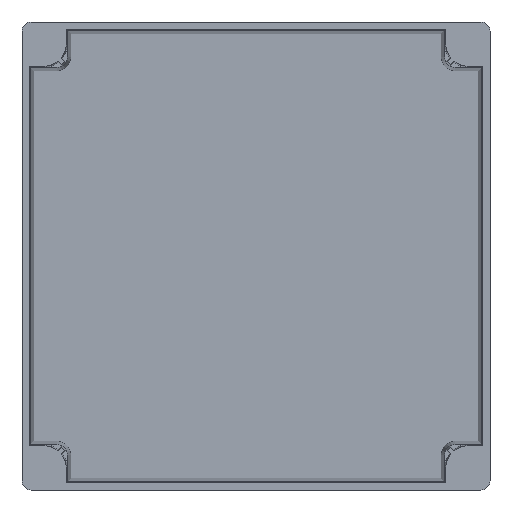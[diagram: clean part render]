
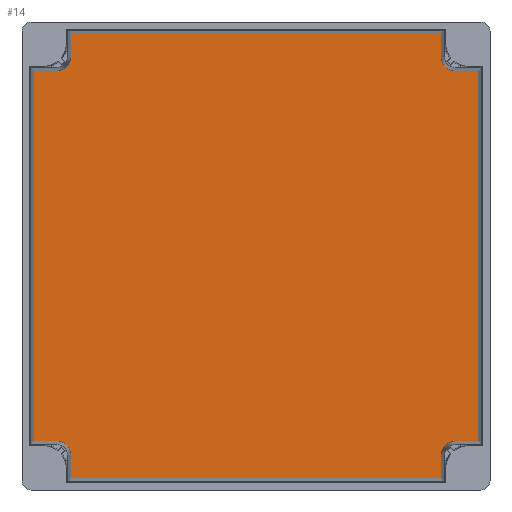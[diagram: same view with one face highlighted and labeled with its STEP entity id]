
A CAD part, front view. The second image highlights one B-rep face of the part: STEP entity #14.
In plain terms, the highlighted planar face has unit normal (0, -1, 0).
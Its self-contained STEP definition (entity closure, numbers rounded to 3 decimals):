
#14 = ADVANCED_FACE ( 'NONE', ( #1373 ), #1379, .F. ) ;
#15 = EDGE_LOOP ( 'NONE', ( #16, #20, #23, #26, #148, #277, #280, #283, #286, #289, #180, #183, #175, #178, #187, #267 ) ) ;
#16 = ORIENTED_EDGE ( 'NONE', *, *, #17, .T. ) ;
#17 = EDGE_CURVE ( 'NONE', #18, #19, #1368, .T. ) ;
#18 = VERTEX_POINT ( 'NONE', #1363 ) ;
#19 = VERTEX_POINT ( 'NONE', #1362 ) ;
#20 = ORIENTED_EDGE ( 'NONE', *, *, #21, .T. ) ;
#21 = EDGE_CURVE ( 'NONE', #19, #22, #1361, .T. ) ;
#22 = VERTEX_POINT ( 'NONE', #1357 ) ;
#23 = ORIENTED_EDGE ( 'NONE', *, *, #24, .T. ) ;
#24 = EDGE_CURVE ( 'NONE', #22, #25, #1204, .T. ) ;
#25 = VERTEX_POINT ( 'NONE', #1200 ) ;
#26 = ORIENTED_EDGE ( 'NONE', *, *, #146, .T. ) ;
#146 = EDGE_CURVE ( 'NONE', #25, #147, #1485, .T. ) ;
#147 = VERTEX_POINT ( 'NONE', #1481 ) ;
#148 = ORIENTED_EDGE ( 'NONE', *, *, #276, .T. ) ;
#149 = VERTEX_POINT ( 'NONE', #1480 ) ;
#175 = ORIENTED_EDGE ( 'NONE', *, *, #176, .T. ) ;
#176 = EDGE_CURVE ( 'NONE', #185, #177, #1405, .T. ) ;
#177 = VERTEX_POINT ( 'NONE', #1400 ) ;
#178 = ORIENTED_EDGE ( 'NONE', *, *, #186, .T. ) ;
#179 = VERTEX_POINT ( 'NONE', #1399 ) ;
#180 = ORIENTED_EDGE ( 'NONE', *, *, #181, .T. ) ;
#181 = EDGE_CURVE ( 'NONE', #291, #182, #1449, .T. ) ;
#182 = VERTEX_POINT ( 'NONE', #1445 ) ;
#183 = ORIENTED_EDGE ( 'NONE', *, *, #184, .T. ) ;
#184 = EDGE_CURVE ( 'NONE', #182, #185, #1444, .T. ) ;
#185 = VERTEX_POINT ( 'NONE', #1440 ) ;
#186 = EDGE_CURVE ( 'NONE', #177, #179, #1439, .T. ) ;
#187 = ORIENTED_EDGE ( 'NONE', *, *, #265, .T. ) ;
#265 = EDGE_CURVE ( 'NONE', #179, #266, #1585, .T. ) ;
#266 = VERTEX_POINT ( 'NONE', #1581 ) ;
#267 = ORIENTED_EDGE ( 'NONE', *, *, #268, .T. ) ;
#268 = EDGE_CURVE ( 'NONE', #266, #18, #1580, .T. ) ;
#276 = EDGE_CURVE ( 'NONE', #147, #149, #1398, .T. ) ;
#277 = ORIENTED_EDGE ( 'NONE', *, *, #278, .T. ) ;
#278 = EDGE_CURVE ( 'NONE', #149, #279, #1394, .T. ) ;
#279 = VERTEX_POINT ( 'NONE', #1390 ) ;
#280 = ORIENTED_EDGE ( 'NONE', *, *, #281, .T. ) ;
#281 = EDGE_CURVE ( 'NONE', #279, #282, #1389, .T. ) ;
#282 = VERTEX_POINT ( 'NONE', #1983 ) ;
#283 = ORIENTED_EDGE ( 'NONE', *, *, #284, .T. ) ;
#284 = EDGE_CURVE ( 'NONE', #282, #285, #2001, .T. ) ;
#285 = VERTEX_POINT ( 'NONE', #1997 ) ;
#286 = ORIENTED_EDGE ( 'NONE', *, *, #287, .T. ) ;
#287 = EDGE_CURVE ( 'NONE', #285, #288, #1982, .T. ) ;
#288 = VERTEX_POINT ( 'NONE', #1977 ) ;
#289 = ORIENTED_EDGE ( 'NONE', *, *, #290, .T. ) ;
#290 = EDGE_CURVE ( 'NONE', #288, #291, #2068, .T. ) ;
#291 = VERTEX_POINT ( 'NONE', #2064 ) ;
#1200 = CARTESIAN_POINT ( 'NONE',  ( -71.235, 48.8, 85.485 ) ) ;
#1201 = DIRECTION ( 'NONE',  ( -1., 0., 0. ) ) ;
#1202 = VECTOR ( 'NONE', #1201, 1000. ) ;
#1203 = CARTESIAN_POINT ( 'NONE',  ( 72.529, 48.8, 85.485 ) ) ;
#1204 = LINE ( 'NONE', #1203, #1202 ) ;
#1357 = CARTESIAN_POINT ( 'NONE',  ( 71.235, 48.8, 85.485 ) ) ;
#1358 = DIRECTION ( 'NONE',  ( 0., 0., 1. ) ) ;
#1359 = VECTOR ( 'NONE', #1358, 1000. ) ;
#1360 = CARTESIAN_POINT ( 'NONE',  ( 71.235, 48.8, 76.634 ) ) ;
#1361 = LINE ( 'NONE', #1360, #1359 ) ;
#1362 = CARTESIAN_POINT ( 'NONE',  ( 71.235, 48.8, 76.634 ) ) ;
#1363 = CARTESIAN_POINT ( 'NONE',  ( 76.634, 48.8, 71.235 ) ) ;
#1364 = DIRECTION ( 'NONE',  ( 0., 0., 1. ) ) ;
#1365 = DIRECTION ( 'NONE',  ( 0., 1., 0. ) ) ;
#1366 = CARTESIAN_POINT ( 'NONE',  ( 76.634, 48.8, 76.634 ) ) ;
#1367 = AXIS2_PLACEMENT_3D ( 'NONE', #1366, #1365, #1364 ) ;
#1368 = CIRCLE ( 'NONE', #1367, 5.399 ) ;
#1369 = DIRECTION ( 'NONE',  ( 0., 0., 1. ) ) ;
#1370 = DIRECTION ( 'NONE',  ( 0., 1., 0. ) ) ;
#1371 = CARTESIAN_POINT ( 'NONE',  ( -81.75, 48.8, -81.75 ) ) ;
#1372 = AXIS2_PLACEMENT_3D ( 'NONE', #1371, #1370, #1369 ) ;
#1373 = FACE_OUTER_BOUND ( 'NONE', #15, .T. ) ;
#1379 = PLANE ( 'NONE',  #1372 ) ;
#1386 = DIRECTION ( 'NONE',  ( 0., 0., -1. ) ) ;
#1387 = VECTOR ( 'NONE', #1386, 1000. ) ;
#1388 = CARTESIAN_POINT ( 'NONE',  ( -85.485, 48.8, 72.529 ) ) ;
#1389 = LINE ( 'NONE', #1388, #1387 ) ;
#1390 = CARTESIAN_POINT ( 'NONE',  ( -85.485, 48.8, 71.235 ) ) ;
#1391 = DIRECTION ( 'NONE',  ( -1., 0., 0. ) ) ;
#1392 = VECTOR ( 'NONE', #1391, 1000. ) ;
#1393 = CARTESIAN_POINT ( 'NONE',  ( -86.779, 48.8, 71.235 ) ) ;
#1394 = LINE ( 'NONE', #1393, #1392 ) ;
#1395 = DIRECTION ( 'NONE',  ( 0., 0., 1. ) ) ;
#1396 = DIRECTION ( 'NONE',  ( 0., 1., 0. ) ) ;
#1397 = AXIS2_PLACEMENT_3D ( 'NONE', #1566, #1396, #1395 ) ;
#1398 = CIRCLE ( 'NONE', #1397, 5.399 ) ;
#1399 = CARTESIAN_POINT ( 'NONE',  ( 85.485, 48.8, -71.235 ) ) ;
#1400 = CARTESIAN_POINT ( 'NONE',  ( 76.634, 48.8, -71.235 ) ) ;
#1401 = DIRECTION ( 'NONE',  ( 0., 0., 1. ) ) ;
#1402 = DIRECTION ( 'NONE',  ( 0., 1., 0. ) ) ;
#1403 = CARTESIAN_POINT ( 'NONE',  ( 76.634, 48.8, -76.634 ) ) ;
#1404 = AXIS2_PLACEMENT_3D ( 'NONE', #1403, #1402, #1401 ) ;
#1405 = CIRCLE ( 'NONE', #1404, 5.399 ) ;
#1436 = DIRECTION ( 'NONE',  ( 1., 0., 0. ) ) ;
#1437 = VECTOR ( 'NONE', #1436, 1000. ) ;
#1438 = CARTESIAN_POINT ( 'NONE',  ( 86.779, 48.8, -71.235 ) ) ;
#1439 = LINE ( 'NONE', #1438, #1437 ) ;
#1440 = CARTESIAN_POINT ( 'NONE',  ( 71.235, 48.8, -76.634 ) ) ;
#1441 = DIRECTION ( 'NONE',  ( 0., 0., 1. ) ) ;
#1442 = VECTOR ( 'NONE', #1441, 1000. ) ;
#1443 = CARTESIAN_POINT ( 'NONE',  ( 71.235, 48.8, -76.634 ) ) ;
#1444 = LINE ( 'NONE', #1443, #1442 ) ;
#1445 = CARTESIAN_POINT ( 'NONE',  ( 71.235, 48.8, -85.485 ) ) ;
#1446 = DIRECTION ( 'NONE',  ( 1., 0., 0. ) ) ;
#1447 = VECTOR ( 'NONE', #1446, 1000. ) ;
#1448 = CARTESIAN_POINT ( 'NONE',  ( -72.529, 48.8, -85.485 ) ) ;
#1449 = LINE ( 'NONE', #1448, #1447 ) ;
#1480 = CARTESIAN_POINT ( 'NONE',  ( -76.634, 48.8, 71.235 ) ) ;
#1481 = CARTESIAN_POINT ( 'NONE',  ( -71.235, 48.8, 76.634 ) ) ;
#1482 = DIRECTION ( 'NONE',  ( 0., 0., -1. ) ) ;
#1483 = VECTOR ( 'NONE', #1482, 1000. ) ;
#1484 = CARTESIAN_POINT ( 'NONE',  ( -71.235, 48.8, 76.634 ) ) ;
#1485 = LINE ( 'NONE', #1484, #1483 ) ;
#1566 = CARTESIAN_POINT ( 'NONE',  ( -76.634, 48.8, 76.634 ) ) ;
#1577 = DIRECTION ( 'NONE',  ( -1., 0., 0. ) ) ;
#1578 = VECTOR ( 'NONE', #1577, 1000. ) ;
#1579 = CARTESIAN_POINT ( 'NONE',  ( 86.779, 48.8, 71.235 ) ) ;
#1580 = LINE ( 'NONE', #1579, #1578 ) ;
#1581 = CARTESIAN_POINT ( 'NONE',  ( 85.485, 48.8, 71.235 ) ) ;
#1582 = DIRECTION ( 'NONE',  ( 0., 0., 1. ) ) ;
#1583 = VECTOR ( 'NONE', #1582, 1000. ) ;
#1584 = CARTESIAN_POINT ( 'NONE',  ( 85.485, 48.8, -72.529 ) ) ;
#1585 = LINE ( 'NONE', #1584, #1583 ) ;
#1977 = CARTESIAN_POINT ( 'NONE',  ( -71.235, 48.8, -76.634 ) ) ;
#1978 = DIRECTION ( 'NONE',  ( 0., 0., 1. ) ) ;
#1979 = DIRECTION ( 'NONE',  ( 0., 1., 0. ) ) ;
#1980 = CARTESIAN_POINT ( 'NONE',  ( -76.634, 48.8, -76.634 ) ) ;
#1981 = AXIS2_PLACEMENT_3D ( 'NONE', #1980, #1979, #1978 ) ;
#1982 = CIRCLE ( 'NONE', #1981, 5.399 ) ;
#1983 = CARTESIAN_POINT ( 'NONE',  ( -85.485, 48.8, -71.235 ) ) ;
#1997 = CARTESIAN_POINT ( 'NONE',  ( -76.634, 48.8, -71.235 ) ) ;
#1998 = DIRECTION ( 'NONE',  ( 1., 0., 0. ) ) ;
#1999 = VECTOR ( 'NONE', #1998, 1000. ) ;
#2000 = CARTESIAN_POINT ( 'NONE',  ( -86.779, 48.8, -71.235 ) ) ;
#2001 = LINE ( 'NONE', #2000, #1999 ) ;
#2064 = CARTESIAN_POINT ( 'NONE',  ( -71.235, 48.8, -85.485 ) ) ;
#2065 = DIRECTION ( 'NONE',  ( 0., 0., -1. ) ) ;
#2066 = VECTOR ( 'NONE', #2065, 1000. ) ;
#2067 = CARTESIAN_POINT ( 'NONE',  ( -71.235, 48.8, -76.634 ) ) ;
#2068 = LINE ( 'NONE', #2067, #2066 ) ;
